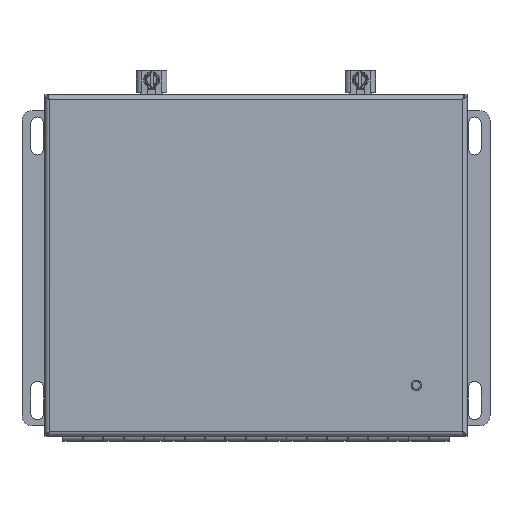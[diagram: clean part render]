
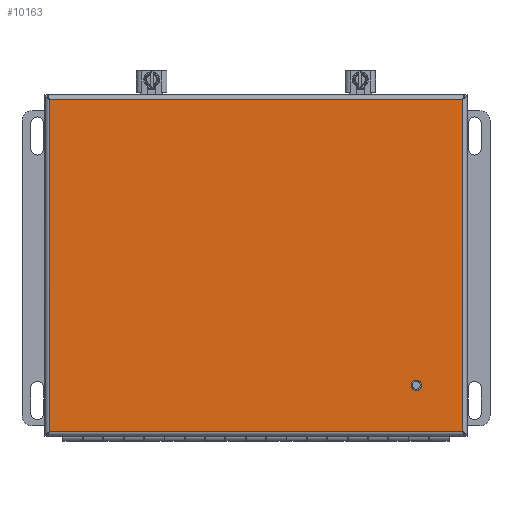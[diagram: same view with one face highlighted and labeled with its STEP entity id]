
A CAD part, top view. The second image highlights one B-rep face of the part: STEP entity #10163.
In plain terms, the highlighted planar face has unit normal (0, 0, 1) as drawn and (0, 0, -1) by its records, which use the part's own axes.
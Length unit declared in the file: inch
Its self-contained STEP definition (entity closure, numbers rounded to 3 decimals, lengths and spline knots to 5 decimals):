
#8736=DIRECTION('',(0.,-1.,0.));
#8737=VECTOR('',#8736,8.161);
#8738=CARTESIAN_POINT('',(10.263,-0.01211,0.));
#8739=LINE('',#8738,#8737);
#8771=CARTESIAN_POINT('',(1.25,-7.03511,0.));
#8772=DIRECTION('',(0.,0.,-1.));
#8773=DIRECTION('',(0.,-1.,0.));
#8774=AXIS2_PLACEMENT_3D('',#8771,#8772,#8773);
#8779=CARTESIAN_POINT('',(1.25,-7.03511,0.));
#8780=DIRECTION('',(0.,0.,-1.));
#8781=DIRECTION('',(0.,1.,0.));
#8782=AXIS2_PLACEMENT_3D('',#8779,#8780,#8781);
#9003=DIRECTION('',(1.,0.,0.));
#9004=VECTOR('',#9003,10.151);
#9005=CARTESIAN_POINT('',(0.112,-8.17311,0.));
#9006=LINE('',#9005,#9004);
#9059=DIRECTION('',(0.,-1.,0.));
#9060=VECTOR('',#9059,8.161);
#9061=CARTESIAN_POINT('',(0.112,-0.01211,0.));
#9062=LINE('',#9061,#9060);
#9180=DIRECTION('',(1.,0.,0.));
#9181=VECTOR('',#9180,10.151);
#9182=CARTESIAN_POINT('',(0.112,-0.01211,0.));
#9183=LINE('',#9182,#9181);
#9508=CARTESIAN_POINT('',(0.112,-0.01211,0.));
#9509=CARTESIAN_POINT('',(10.263,-0.01211,0.));
#9510=VERTEX_POINT('',#9508);
#9511=VERTEX_POINT('',#9509);
#9524=CARTESIAN_POINT('',(0.112,-8.17311,0.));
#9525=CARTESIAN_POINT('',(10.263,-8.17311,0.));
#9526=VERTEX_POINT('',#9524);
#9527=VERTEX_POINT('',#9525);
#9536=CARTESIAN_POINT('',(1.25,-7.13316,0.));
#9537=CARTESIAN_POINT('',(1.25,-6.93706,0.));
#9538=VERTEX_POINT('',#9536);
#9539=VERTEX_POINT('',#9537);
#10143=CARTESIAN_POINT('',(0.,0.09989,0.));
#10144=DIRECTION('',(0.,0.,-1.));
#10145=DIRECTION('',(1.,0.,0.));
#10146=AXIS2_PLACEMENT_3D('',#10143,#10144,#10145);
#10147=PLANE('',#10146);
#10148=ORIENTED_EDGE('',*,*,#10133,.F.);
#10150=ORIENTED_EDGE('',*,*,#10149,.F.);
#10152=ORIENTED_EDGE('',*,*,#10151,.T.);
#10154=ORIENTED_EDGE('',*,*,#10153,.T.);
#10155=EDGE_LOOP('',(#10148,#10150,#10152,#10154));
#10156=FACE_OUTER_BOUND('',#10155,.F.);
#10158=ORIENTED_EDGE('',*,*,#10157,.T.);
#10160=ORIENTED_EDGE('',*,*,#10159,.T.);
#10161=EDGE_LOOP('',(#10158,#10160));
#10162=FACE_BOUND('',#10161,.F.);
#8775=CIRCLE('',#8774,0.09805);
#8783=CIRCLE('',#8782,0.09805);
#10133=EDGE_CURVE('',#9511,#9527,#8739,.T.);
#10149=EDGE_CURVE('',#9510,#9511,#9183,.T.);
#10151=EDGE_CURVE('',#9510,#9526,#9062,.T.);
#10153=EDGE_CURVE('',#9526,#9527,#9006,.T.);
#10157=EDGE_CURVE('',#9538,#9539,#8775,.T.);
#10159=EDGE_CURVE('',#9539,#9538,#8783,.T.);
#10163=ADVANCED_FACE('',(#10156,#10162),#10147,.T.);
